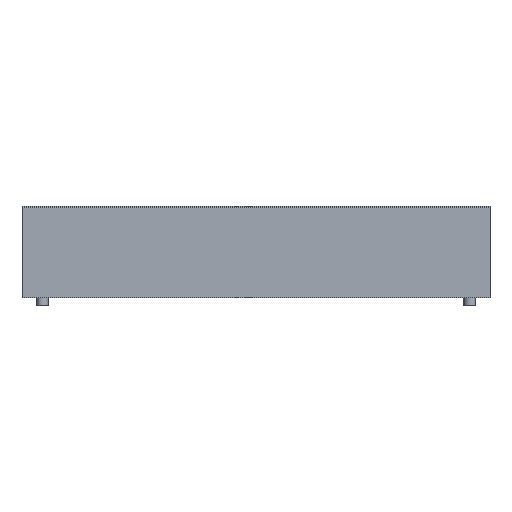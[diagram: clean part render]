
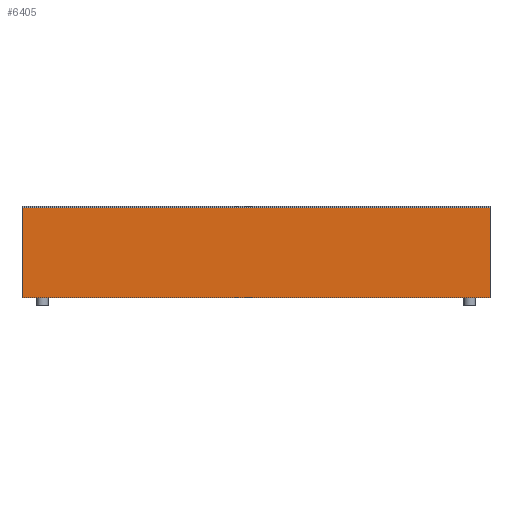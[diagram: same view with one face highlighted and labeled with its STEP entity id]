
A CAD part, left-side view. The second image highlights one B-rep face of the part: STEP entity #6405.
In plain terms, the highlighted planar face has unit normal (-1, 0, 0).
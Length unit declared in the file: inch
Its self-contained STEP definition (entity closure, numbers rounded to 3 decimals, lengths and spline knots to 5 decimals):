
#2343 = VERTEX_POINT ( 'NONE', #12156 ) ;
#3638 = CARTESIAN_POINT ( 'NONE',  ( 0.89307, 4.48121, 3.93148 ) ) ;
#3656 = VECTOR ( 'NONE', #18892, 39.37008 ) ;
#3715 = CARTESIAN_POINT ( 'NONE',  ( 0.89307, 4.48121, 3.93148 ) ) ;
#3759 = EDGE_CURVE ( 'NONE', #5003, #14253, #16457, .T. ) ;
#3906 = AXIS2_PLACEMENT_3D ( 'NONE', #3715, #17225, #12717 ) ;
#4013 = CARTESIAN_POINT ( 'NONE',  ( 0.89307, -0.11879, 3.91648 ) ) ;
#4141 = VECTOR ( 'NONE', #20405, 39.37008 ) ;
#4501 = EDGE_CURVE ( 'NONE', #14253, #2343, #27942, .T. ) ;
#4953 = VERTEX_POINT ( 'NONE', #4013 ) ;
#5003 = VERTEX_POINT ( 'NONE', #9855 ) ;
#5504 = EDGE_CURVE ( 'NONE', #4953, #2343, #20274, .T. ) ;
#6160 = EDGE_CURVE ( 'NONE', #4953, #5003, #27613, .T. ) ;
#6405 = ADVANCED_FACE ( 'NONE', ( #14694 ), #21383, .F. ) ;
#7322 = ORIENTED_EDGE ( 'NONE', *, *, #4501, .T. ) ;
#8242 = CARTESIAN_POINT ( 'NONE',  ( 0.89307, 4.48121, 3.91648 ) ) ;
#9820 = DIRECTION ( 'NONE',  ( 0., 0., -1. ) ) ;
#9855 = CARTESIAN_POINT ( 'NONE',  ( 0.89307, 4.48121, 3.91648 ) ) ;
#11053 = ORIENTED_EDGE ( 'NONE', *, *, #3759, .T. ) ;
#12156 = CARTESIAN_POINT ( 'NONE',  ( 0.89307, -0.11879, 3.03148 ) ) ;
#12717 = DIRECTION ( 'NONE',  ( 0., 1., 0. ) ) ;
#14253 = VERTEX_POINT ( 'NONE', #26659 ) ;
#14694 = FACE_OUTER_BOUND ( 'NONE', #21885, .T. ) ;
#15568 = VECTOR ( 'NONE', #25366, 39.37008 ) ;
#16134 = CARTESIAN_POINT ( 'NONE',  ( 0.89307, -0.11879, 3.93148 ) ) ;
#16457 = LINE ( 'NONE', #3638, #21169 ) ;
#17225 = DIRECTION ( 'NONE',  ( 1., 0., 0. ) ) ;
#18892 = DIRECTION ( 'NONE',  ( 0., -1., 0. ) ) ;
#19597 = ORIENTED_EDGE ( 'NONE', *, *, #6160, .T. ) ;
#20274 = LINE ( 'NONE', #16134, #4141 ) ;
#20405 = DIRECTION ( 'NONE',  ( 0., 0., -1. ) ) ;
#21169 = VECTOR ( 'NONE', #9820, 39.37008 ) ;
#21383 = PLANE ( 'NONE',  #3906 ) ;
#21885 = EDGE_LOOP ( 'NONE', ( #26396, #19597, #11053, #7322 ) ) ;
#23299 = CARTESIAN_POINT ( 'NONE',  ( 0.89307, 4.48121, 3.03148 ) ) ;
#25366 = DIRECTION ( 'NONE',  ( 0., 1., 0. ) ) ;
#26396 = ORIENTED_EDGE ( 'NONE', *, *, #5504, .F. ) ;
#26659 = CARTESIAN_POINT ( 'NONE',  ( 0.89307, 4.48121, 3.03148 ) ) ;
#27613 = LINE ( 'NONE', #8242, #15568 ) ;
#27942 = LINE ( 'NONE', #23299, #3656 ) ;
